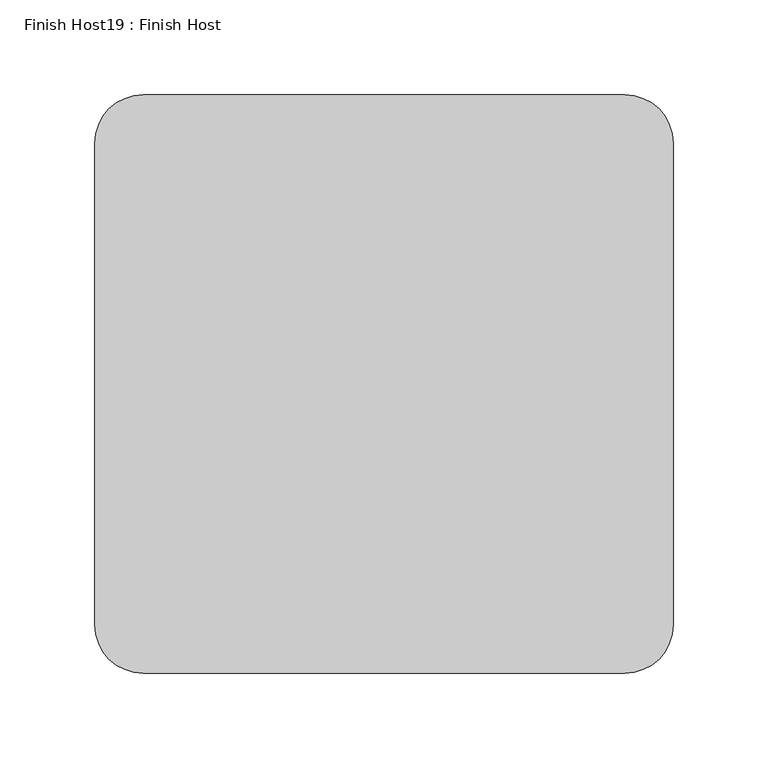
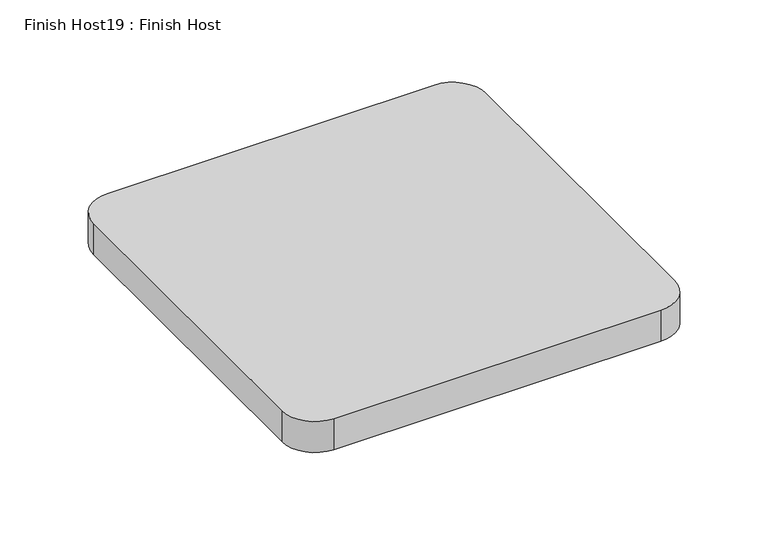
"""IFC4 building model written with IfcOpenShell, lengths in millimetres: proxy geometry, Finish Host19 : Finish Host."""

from ifc_helpers import new_model, si_unit, point, frame_2d, origin, origin_with_axes, place, context, project, spatial, polyline, circle_curve, trimmed, segment, composite_curve, outline, extrude, source, transform, mapped, element, save


def finish_host19_finish_host_efa92566(model_context):
    return source(origin(), model_context, "Body", "SweptSolid", [
        extrude(outline(composite_curve([segment(polyline([(3018.9649374, 1413.7667263), (3018.9649374, 1667.7667263)]), True, "CONTINUOUS"), segment(trimmed(circle_curve(frame_2d((3044.3649374, 1667.7667263)), 25.4), [point((3018.9649374, 1667.7667263))], [point((3044.3649374, 1693.1667263))], False, "CARTESIAN"), True, "CONTINUOUS"), segment(polyline([(3044.3649374, 1693.1667263), (3298.3649374, 1693.1667263)]), True, "CONTINUOUS"), segment(trimmed(circle_curve(frame_2d((3298.3649374, 1667.7667263)), 25.4), [point((3298.3649374, 1693.1667263))], [point((3323.7649374, 1667.7667263))], False, "CARTESIAN"), True, "CONTINUOUS"), segment(polyline([(3323.7649374, 1667.7667263), (3323.7649374, 1413.7667263)]), True, "CONTINUOUS"), segment(trimmed(circle_curve(frame_2d((3298.3649374, 1413.7667263)), 25.4), [point((3323.7649374, 1413.7667263))], [point((3298.3649374, 1388.3667263))], False, "CARTESIAN"), True, "CONTINUOUS"), segment(polyline([(3298.3649374, 1388.3667263), (3044.3649374, 1388.3667263)]), True, "CONTINUOUS"), segment(trimmed(circle_curve(frame_2d((3044.3649374, 1413.7667263)), 25.4), [point((3044.3649374, 1388.3667263))], [point((3018.9649374, 1413.7667263))], False, "CARTESIAN"), True, "CONTINUOUS")], self_intersect=False)), origin_with_axes(), (0.0, 0.0, 1.0), 25.4),
    ])


if __name__ == "__main__":
    model = new_model("IFC4")
    model_context = context("Model", 3, world=origin())
    ifc_project = project(units=[si_unit("LENGTHUNIT", "METRE", prefix="MILLI")], contexts=[model_context])
    site = spatial("IfcSite", under=ifc_project)
    building = spatial("IfcBuilding", under=site)
    placement = place(None, origin())
    finish_host19_finish_host_shape = finish_host19_finish_host_efa92566(model_context)
    element("IfcBuildingElementProxy", 1, Name="Finish Host19 : Finish Host", ObjectType="Finish Host19 : Finish Host", at=placement, inside=building, context=model_context, shape_type="MappedRepresentation", body=[
        mapped(finish_host19_finish_host_shape, transform((0.0, 0.0, 0.0), x_axis=(1.0, 0.0, 0.0), y_axis=(0.0, 1.0, 0.0), z_axis=(0.0, 0.0, 1.0))),
    ])
    save(model, "model.ifc")
